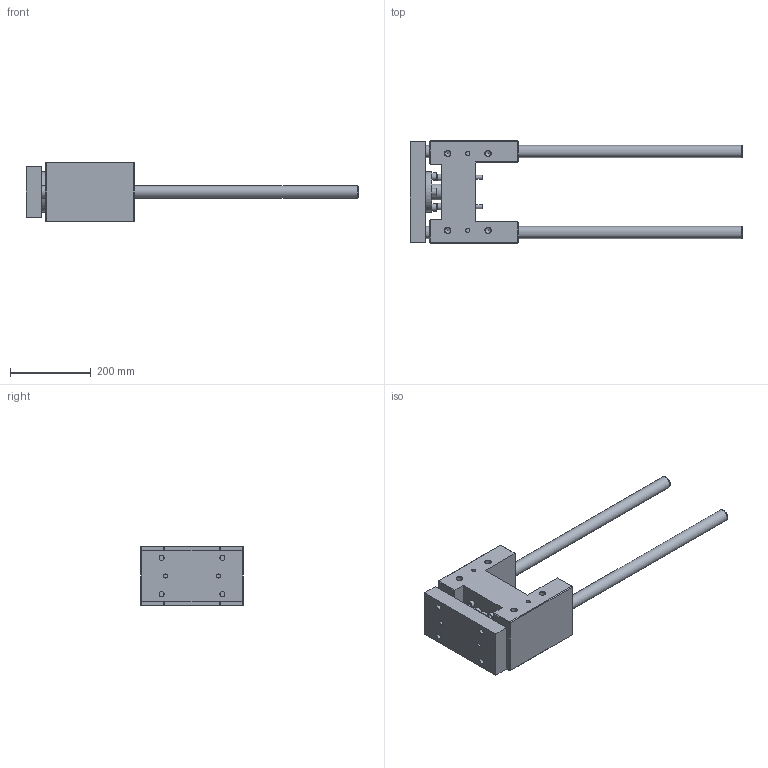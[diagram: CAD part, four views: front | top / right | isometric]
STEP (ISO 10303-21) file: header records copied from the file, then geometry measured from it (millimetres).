
FILE_DESCRIPTION( ( 'STEP AP214' ), '1' );
FILE_NAME( 'U:/Etudes/Top Solid/BIBLIO 3D AVM/TOP/PNEUMATIQUE/GUIDAGES/Type 32 (en H)/R_Renforcée/328R8230.step', '2005-05-27T09:16:30', ( ' ' ), ( ' ' ), 'XStep 1.0', ' ', ' ' );
FILE_SCHEMA( ( 'automotive_design' ) );
Length unit declared in the file: metre
Products named in the file (2): 1; 2
Bounding box: 820 x 252 x 148 mm (x, y, z)
Volume: 7098208.8 mm3; surface area: 609567.6 mm2
Topology: 2 solids, 7 shells, 239 faces, 527 edges, 341 vertices
Faces by surface type: plane 149, cylinder 69, cone 21
Full cylindrical faces by diameter (mm): 10 x12, 10.106 x4, 11 x4, 12 x8, 13 x8, 13.835 x8, 16 x4, 18 x4, 18.376 x2, 20 x4, 30 x4, 39 x1, 42 x1, 45 x1, 57 x1, 60 x1, 65 x1, 100 x1
Entity records: 7933 total; most frequent: CARTESIAN_POINT 1201, DIRECTION 1000, ORIENTED_EDGE 786, EDGE_CURVE 393, EDGE_LOOP 392, AXIS2_PLACEMENT_3D 374, FACE_OUTER_BOUND 308, VERTEX_POINT 303
